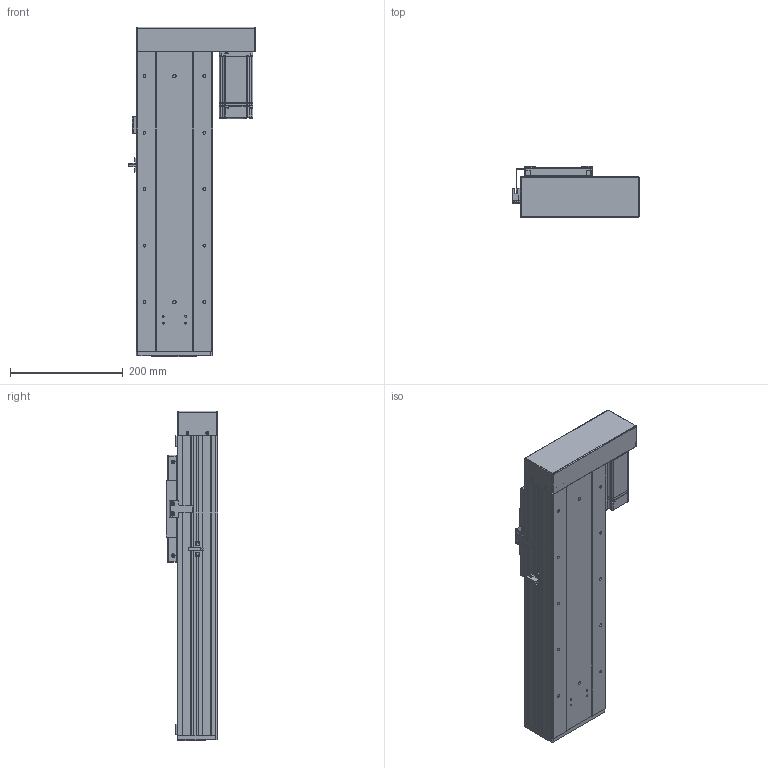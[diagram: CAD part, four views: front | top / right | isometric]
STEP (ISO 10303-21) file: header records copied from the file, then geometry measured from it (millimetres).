
FILE_DESCRIPTION (( 'STEP AP203' ), '1' );
FILE_NAME ('RY140F-L2020-300-RK.SLDASM_250.step', '2021-03-02T08:49:53', ( '盈信电脑' ), ( '东莞市道滘镇水果街19号' ), 'SwSTEP 2.0', 'SolidWorks 2012', '' );
FILE_SCHEMA (( 'CONFIG_CONTROL_DESIGN' ));
Length unit declared in the file: millimetre
Products named in the file (19): RY140F-L2020-300-RK.SLDASM_250; 侐源滅袉蝶; RY140F-转折折电机座（7001）; RY140F-酘衵殏萇儂欶(400W); RY140F-左右折电机安装板(400W M5); 覜茼ん672; RY140F-詩湍揤え; RY140F-672覜茼んえ; RY140F-后盖板(铝件）; 15; 侂狟400W侜督萇儂; RY140F-直连型材铝滑块(16丝杆); RY100F-詩湍揤踡謫; RY140F-滅鳥奻裔; RY140F-詩湍幗謫粣; RY140F-直连型材铝滑块连接座; RY140F-300-RK倰第菁釱_250; RY140F-300-RK蛌殏詩湍_250; RY140F-300-RK倰第奻裔啣_250
Assembly tree (23 placements, depth 3):
  RY140F-L2020-300-RK.SLDASM_250
    RY140F-300-RK倰第菁釱_250
    RY140F-300-RK倰第奻裔啣_250  x2
    RY140F-300-RK蛌殏詩湍_250
    RY140F-直连型材铝滑块连接座
    RY140F-滅鳥奻裔
    RY140F-詩湍幗謫粣
    RY100F-詩湍揤踡謫
    RY140F-直连型材铝滑块(16丝杆)
    RY140F-后盖板(铝件）
    侂狟400W侜督萇儂
      15
    覜茼ん672
    RY140F-672覜茼んえ
    RY140F-詩湍揤え  x2
    侐源滅袉蝶  x4
    RY140F-转折折电机座（7001）
    RY140F-左右折电机安装板(400W M5)
    RY140F-酘衵殏萇儂欶(400W)
Bounding box: 224.7 x 91 x 584 mm (x, y, z)
Volume: 2763688.2 mm3; surface area: 973034.9 mm2
Topology: 22 solids, 22 shells, 1969 faces, 5377 edges, 3426 vertices
Faces by surface type: cylinder 948, plane 789, cone 202, bspline 26, torus 4
Entity records: 62343 total; most frequent: CARTESIAN_POINT 13275, DIRECTION 9930, ORIENTED_EDGE 9690, EDGE_CURVE 4845, AXIS2_PLACEMENT_3D 3545, VERTEX_POINT 3166, LINE 2840, VECTOR 2840
